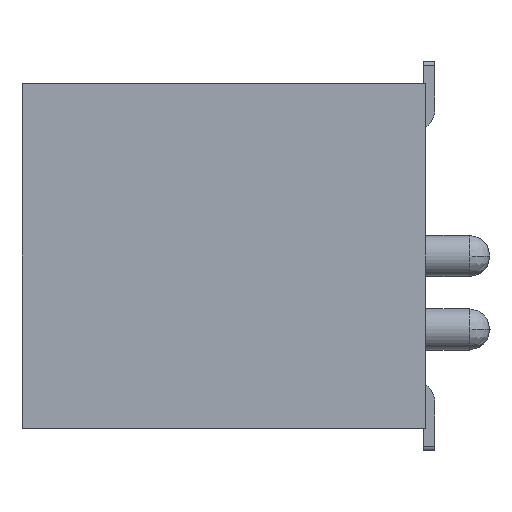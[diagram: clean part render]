
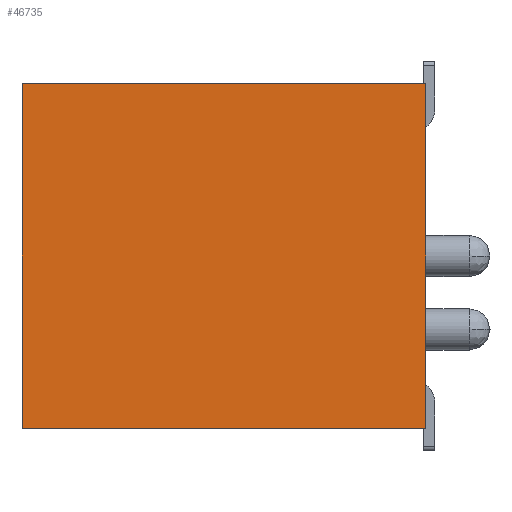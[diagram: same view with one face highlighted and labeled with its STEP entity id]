
A CAD part, left-side view. The second image highlights one B-rep face of the part: STEP entity #46735.
In plain terms, the highlighted planar face has unit normal (-1, 0, 0).
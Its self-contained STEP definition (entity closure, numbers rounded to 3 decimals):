
#4174 = EDGE_CURVE ( 'NONE', #47747, #45673, #18009, .T. ) ;
#4179 = EDGE_CURVE ( 'NONE', #45683, #47746, #18016, .T. ) ;
#4181 = EDGE_CURVE ( 'NONE', #47747, #47746, #18017, .T. ) ;
#16942 = VECTOR ( 'NONE', #18015, 1000. ) ;
#16944 = VECTOR ( 'NONE', #18021, 1000. ) ;
#16945 = VECTOR ( 'NONE', #18024, 1000. ) ;
#18009 = LINE ( 'NONE', #18010, #16942 ) ;
#18010 = CARTESIAN_POINT ( 'NONE',  ( -12.25, 8.8, -3.75 ) ) ;
#18014 = CARTESIAN_POINT ( 'NONE',  ( -12.25, 0., -3.75 ) ) ;
#18015 = DIRECTION ( 'NONE',  ( 0., 0., -1. ) ) ;
#18016 = LINE ( 'NONE', #18014, #16944 ) ;
#18017 = LINE ( 'NONE', #18022, #16945 ) ;
#18021 = DIRECTION ( 'NONE',  ( 0., 0., 1. ) ) ;
#18022 = CARTESIAN_POINT ( 'NONE',  ( -12.25, 0., 3.75 ) ) ;
#18024 = DIRECTION ( 'NONE',  ( 0., -1., 0. ) ) ;
#27204 = VECTOR ( 'NONE', #29967, 1000. ) ;
#28949 = CARTESIAN_POINT ( 'NONE',  ( -12.25, 8.8, -3.75 ) ) ;
#28959 = CARTESIAN_POINT ( 'NONE',  ( -12.25, 0., -3.75 ) ) ;
#29965 = LINE ( 'NONE', #29966, #27204 ) ;
#29966 = CARTESIAN_POINT ( 'NONE',  ( -12.25, 0., -3.75 ) ) ;
#29967 = DIRECTION ( 'NONE',  ( 0., -1., 0. ) ) ;
#31736 = PLANE ( 'NONE',  #32231 ) ;
#31745 = CARTESIAN_POINT ( 'NONE',  ( -12.25, 0., -3.75 ) ) ;
#31751 = FACE_OUTER_BOUND ( 'NONE', #51580, .T. ) ;
#31753 = DIRECTION ( 'NONE',  ( -1., 0., 0. ) ) ;
#31754 = DIRECTION ( 'NONE',  ( 0., 0., 1. ) ) ;
#32231 = AXIS2_PLACEMENT_3D ( 'NONE', #31745, #31753, #31754 ) ;
#34219 = CARTESIAN_POINT ( 'NONE',  ( -12.25, 8.8, 3.75 ) ) ;
#34225 = CARTESIAN_POINT ( 'NONE',  ( -12.25, 0., 3.75 ) ) ;
#45673 = VERTEX_POINT ( 'NONE', #28949 ) ;
#45683 = VERTEX_POINT ( 'NONE', #28959 ) ;
#46300 = EDGE_CURVE ( 'NONE', #45673, #45683, #29965, .T. ) ;
#46735 = ADVANCED_FACE ( 'NONE', ( #31751 ), #31736, .T. ) ;
#47746 = VERTEX_POINT ( 'NONE', #34225 ) ;
#47747 = VERTEX_POINT ( 'NONE', #34219 ) ;
#51580 = EDGE_LOOP ( 'NONE', ( #52838, #52923, #52740, #53239 ) ) ;
#52740 = ORIENTED_EDGE ( 'NONE', *, *, #4181, .F. ) ;
#52838 = ORIENTED_EDGE ( 'NONE', *, *, #46300, .T. ) ;
#52923 = ORIENTED_EDGE ( 'NONE', *, *, #4179, .T. ) ;
#53239 = ORIENTED_EDGE ( 'NONE', *, *, #4174, .T. ) ;
